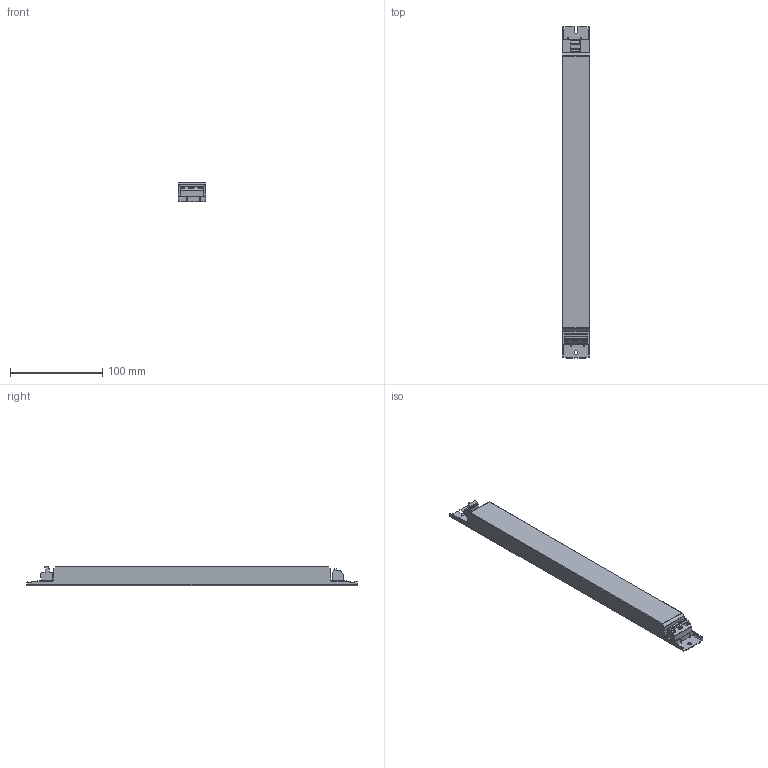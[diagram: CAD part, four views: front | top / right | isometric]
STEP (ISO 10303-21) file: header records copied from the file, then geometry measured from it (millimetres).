
FILE_DESCRIPTION((''),'2;1');
FILE_NAME('15009327Z_DATA_MEC','2015-04-17T',('Juergen.Hrach'),(''),'PRO/ENGINEER BY PARAMETRIC TECHNOLOGY CORPORATION, 2014000','PRO/ENGINEER BY PARAMETRIC TECHNOLOGY CORPORATION, 2014000','');
FILE_SCHEMA(('AUTOMOTIVE_DESIGN { 1 0 10303 214 1 1 1 1 }'));
Length unit declared in the file: millimetre
Products named in the file (1): 15009327Z_DATA_MEC
Bounding box: 30 x 360 x 21 mm (x, y, z)
Volume: 199129.3 mm3; surface area: 37085.1 mm2
Topology: 1 solids, 1 shells, 195 faces, 533 edges, 354 vertices
Faces by surface type: plane 114, cylinder 81
Entity records: 8240 total; most frequent: CARTESIAN_POINT 1108, DIRECTION 1073, ORIENTED_EDGE 1066, PRESENTATION_STYLE_ASSIGNMENT 536, STYLED_ITEM 534, CURVE_STYLE 533, EDGE_CURVE 533, VECTOR 367
